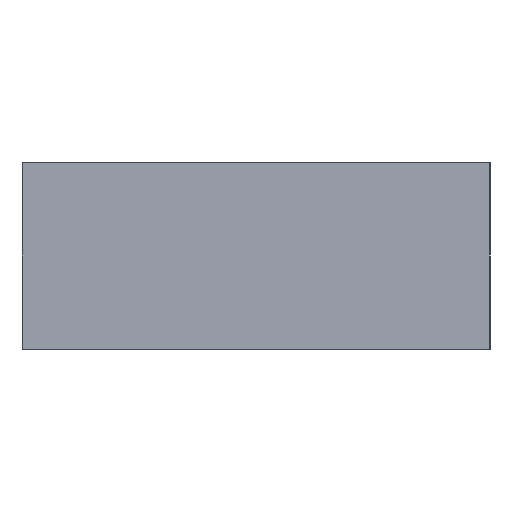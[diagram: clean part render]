
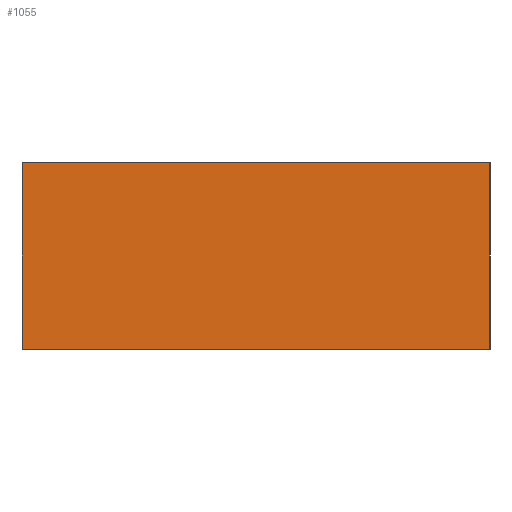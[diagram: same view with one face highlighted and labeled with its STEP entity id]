
A CAD part, left-side view. The second image highlights one B-rep face of the part: STEP entity #1055.
In plain terms, the highlighted planar face has unit normal (-1, 0, 0).
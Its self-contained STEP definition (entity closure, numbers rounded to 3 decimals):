
#768 = VERTEX_POINT('',#769);
#769 = CARTESIAN_POINT('',(0.,0.,0.));
#786 = VERTEX_POINT('',#787);
#787 = CARTESIAN_POINT('',(0.,125.35,0.));
#793 = EDGE_CURVE('',#786,#768,#794,.T.);
#794 = LINE('',#795,#796);
#795 = CARTESIAN_POINT('',(0.,125.35,0.));
#796 = VECTOR('',#797,1.);
#797 = DIRECTION('',(0.,-1.,0.));
#825 = EDGE_CURVE('',#826,#828,#830,.T.);
#826 = VERTEX_POINT('',#827);
#827 = CARTESIAN_POINT('',(0.,0.,50.));
#828 = VERTEX_POINT('',#829);
#829 = CARTESIAN_POINT('',(0.,125.35,50.));
#830 = LINE('',#831,#832);
#831 = CARTESIAN_POINT('',(0.,0.,50.));
#832 = VECTOR('',#833,1.);
#833 = DIRECTION('',(-0.,1.,0.));
#1055 = ADVANCED_FACE('',(#1056),#1072,.T.);
#1056 = FACE_BOUND('',#1057,.T.);
#1057 = EDGE_LOOP('',(#1058,#1059,#1065,#1066));
#1058 = ORIENTED_EDGE('',*,*,#825,.T.);
#1059 = ORIENTED_EDGE('',*,*,#1060,.F.);
#1060 = EDGE_CURVE('',#786,#828,#1061,.T.);
#1061 = LINE('',#1062,#1063);
#1062 = CARTESIAN_POINT('',(0.,125.35,0.));
#1063 = VECTOR('',#1064,1.);
#1064 = DIRECTION('',(0.,0.,1.));
#1065 = ORIENTED_EDGE('',*,*,#793,.T.);
#1066 = ORIENTED_EDGE('',*,*,#1067,.T.);
#1067 = EDGE_CURVE('',#768,#826,#1068,.T.);
#1068 = LINE('',#1069,#1070);
#1069 = CARTESIAN_POINT('',(0.,0.,0.));
#1070 = VECTOR('',#1071,1.);
#1071 = DIRECTION('',(0.,0.,1.));
#1072 = PLANE('',#1073);
#1073 = AXIS2_PLACEMENT_3D('',#1074,#1075,#1076);
#1074 = CARTESIAN_POINT('',(0.,62.675,25.));
#1075 = DIRECTION('',(-1.,-0.,-0.));
#1076 = DIRECTION('',(0.,0.,-1.));
